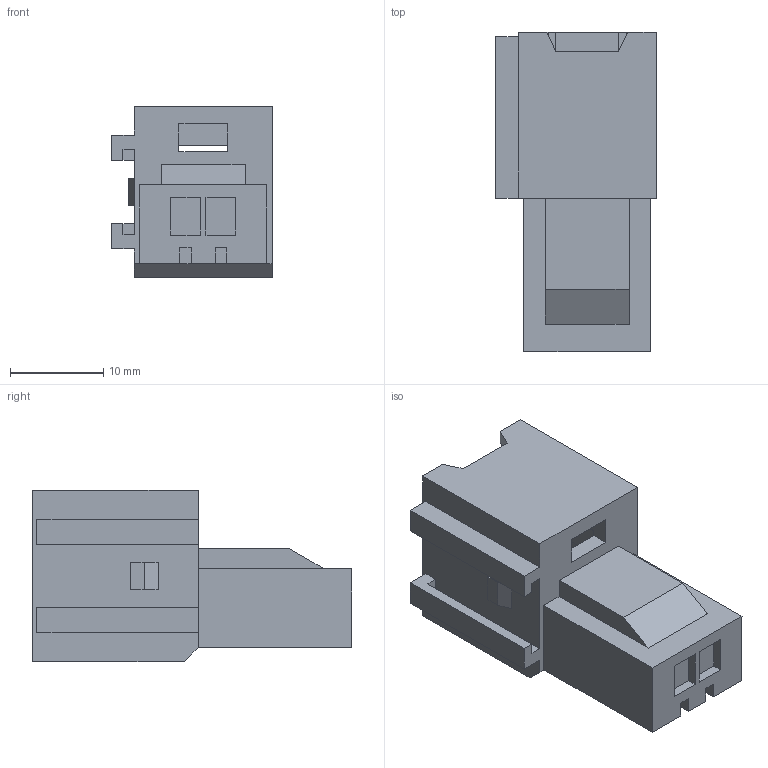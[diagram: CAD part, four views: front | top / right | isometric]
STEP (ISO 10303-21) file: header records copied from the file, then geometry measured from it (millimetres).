
FILE_DESCRIPTION(('CATIA V5 STEP','CAx-IF Rec.Pracs.--- Model Styling and Organization---1.4--- 2014-01-23'),'2;1');
FILE_NAME('\\fss02.ad.sws.co.jp\fs100016\第3設計部\共有\コネクタ第1Gr\【91】一時保管\★カタログ用参考資料\簡易３D\stp_送付用\6098-6962.stp','2024-10-07T06:42:31+00:00',('none'),('none'),'CATIA Version 5-6 Release 2018 SP4','CATIA V5 STEP AP214','none');
FILE_SCHEMA(('AUTOMOTIVE_DESIGN { 1 0 10303 214 1 1 1 1 }'));
Length unit declared in the file: millimetre
Products named in the file (1): 6098-6962
Bounding box: 17.2 x 34.25 x 18.35 mm (x, y, z)
Volume: 4586.5 mm3; surface area: 4032.7 mm2
Topology: 1 solids, 1 shells, 94 faces, 258 edges, 170 vertices
Faces by surface type: plane 94
Entity records: 2830 total; most frequent: ORIENTED_EDGE 516, CARTESIAN_POINT 501, DIRECTION 402, VECTOR 258, EDGE_CURVE 258, LINE 258, VERTEX_POINT 170, EDGE_LOOP 100
